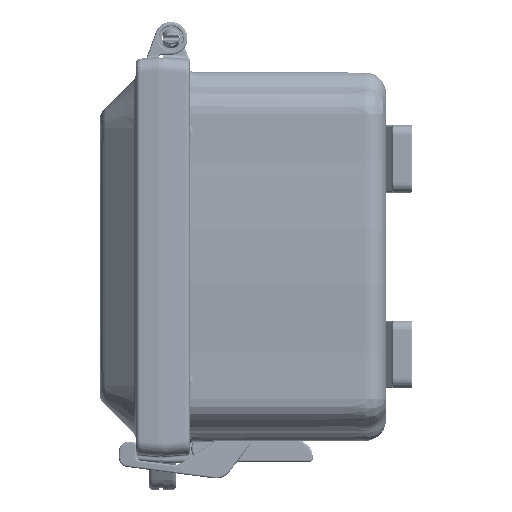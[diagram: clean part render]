
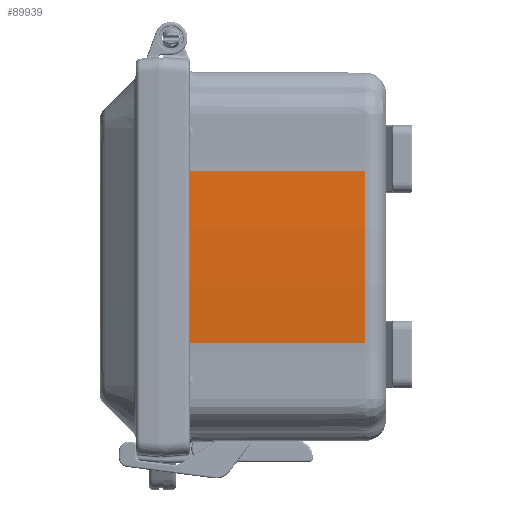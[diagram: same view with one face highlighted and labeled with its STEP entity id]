
A CAD part, left-side view. The second image highlights one B-rep face of the part: STEP entity #89939.
In plain terms, the highlighted conical face has half-angle 0.25 degrees and reference radius 622.875 mm.
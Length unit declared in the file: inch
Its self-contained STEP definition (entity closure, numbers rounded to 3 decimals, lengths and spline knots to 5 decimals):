
#48463=DIRECTION('',(-0.004,1.,0.));
#48464=VECTOR('',#48463,3.54688);
#48465=CARTESIAN_POINT('',(-4.13425,-3.7517,
-1.59409));
#48466=LINE('',#48465,#48464);
#48485=CARTESIAN_POINT('',(20.32875,-0.20472,0.));
#48486=DIRECTION('',(0.,1.,0.));
#48487=DIRECTION('',(-0.998,0.,
-0.065));
#48488=AXIS2_PLACEMENT_3D('',#48485,#48486,#48487);
#48800=DIRECTION('',(0.004,-1.,0.));
#48801=VECTOR('',#48800,3.54688);
#48802=CARTESIAN_POINT('',(-4.14969,-0.20486,
1.5951));
#48803=LINE('',#48802,#48801);
#49374=CARTESIAN_POINT('',(20.32875,-3.7517,0.));
#49375=DIRECTION('',(0.,-1.,0.));
#49376=DIRECTION('',(-0.998,0.,0.065));
#49377=AXIS2_PLACEMENT_3D('',#49374,#49375,#49376);
#68063=CARTESIAN_POINT('',(-4.13425,-3.7517,
-1.59409));
#68065=VERTEX_POINT('',#68063);
#69473=CARTESIAN_POINT('',(-4.14969,-0.20472,
-1.5951));
#69475=VERTEX_POINT('',#69473);
#69767=CARTESIAN_POINT('',(-4.14969,-0.20486,
1.5951));
#69768=CARTESIAN_POINT('',(-4.13425,-3.7517,
1.59409));
#69769=VERTEX_POINT('',#69767);
#69770=VERTEX_POINT('',#69768);
#89925=CARTESIAN_POINT('',(20.32875,-1.97821,0.));
#89926=DIRECTION('',(0.,1.,0.));
#89927=DIRECTION('',(0.,0.,1.));
#89928=AXIS2_PLACEMENT_3D('',#89925,#89926,#89927);
#89929=CONICAL_SURFACE('',#89928,24.52262,0.25);
#89931=ORIENTED_EDGE('',*,*,#89930,.T.);
#89933=ORIENTED_EDGE('',*,*,#89932,.T.);
#89935=ORIENTED_EDGE('',*,*,#89934,.T.);
#89936=ORIENTED_EDGE('',*,*,#89916,.T.);
#89937=EDGE_LOOP('',(#89931,#89933,#89935,#89936));
#89938=FACE_OUTER_BOUND('',#89937,.F.);
#48489=CIRCLE('',#48488,24.53036);
#49378=CIRCLE('',#49377,24.51488);
#89916=EDGE_CURVE('',#68065,#69475,#48466,.T.);
#89930=EDGE_CURVE('',#69475,#69769,#48489,.T.);
#89932=EDGE_CURVE('',#69769,#69770,#48803,.T.);
#89934=EDGE_CURVE('',#69770,#68065,#49378,.T.);
#89939=ADVANCED_FACE('',(#89938),#89929,.T.);
